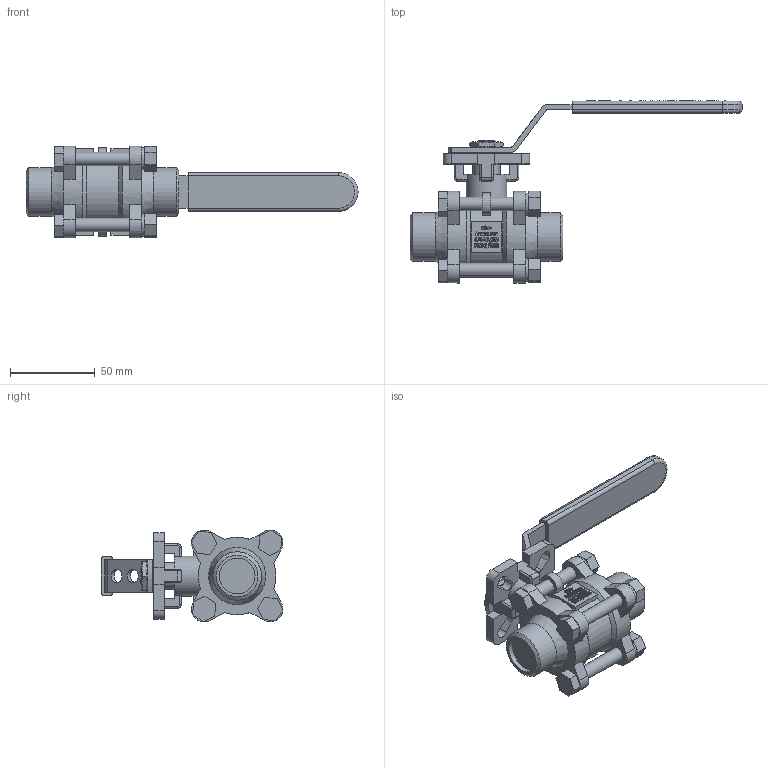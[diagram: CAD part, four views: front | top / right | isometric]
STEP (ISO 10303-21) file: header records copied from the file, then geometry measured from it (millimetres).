
FILE_DESCRIPTION((''),'2;1');
FILE_NAME('K:\Inventor\1 Artikel\11) Muffen-Kugelhähne\11a) manuell\Econosto\470-VABW, 7644ISO\470-VABW, DN20\470-VABW, DN20, 3D\470-VABW, DN20, PN68, HH, 3D.stp','2019-10-23T10:44:44',('claudia'),(''),'Autodesk Inventor 2013','Autodesk Inventor 2013','');
FILE_SCHEMA(('AUTOMOTIVE_DESIGN { 1 0 10303 214 1 1 1 1 }'));
Length unit declared in the file: millimetre
Products named in the file (1): Bauteil9
Bounding box: 195.33 x 107.04 x 53.89 mm (x, y, z)
Volume: 137319.3 mm3; surface area: 50007 mm2
Topology: 2 solids, 2 shells, 1500 faces, 4038 edges, 2665 vertices
Faces by surface type: plane 897, bspline 499, cylinder 84, cone 18, torus 2
Full cylindrical faces by diameter (mm): 8 x10, 8.5 x2, 13 x4, 16 x1, 21 x2, 24 x2, 28 x1, 28.5 x2, 33.596 x1, 45.6 x2
Entity records: 50654 total; most frequent: CARTESIAN_POINT 16465, ORIENTED_EDGE 7982, DIRECTION 5219, EDGE_CURVE 3991, VECTOR 2701, LINE 2701, VERTEX_POINT 2650, EDGE_LOOP 1693
